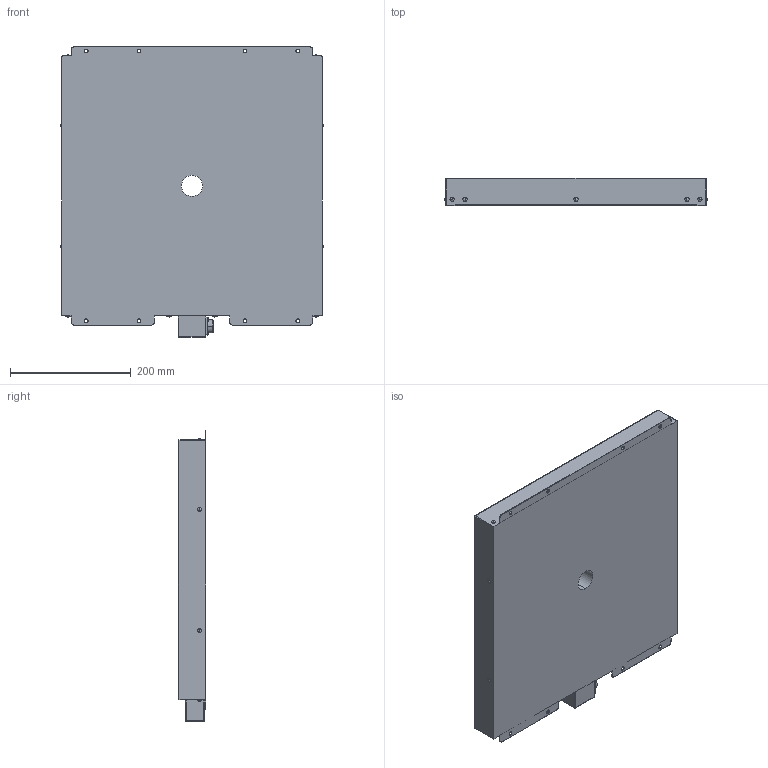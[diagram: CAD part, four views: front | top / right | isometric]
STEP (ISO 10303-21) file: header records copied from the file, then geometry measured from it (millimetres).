
FILE_DESCRIPTION (( 'STEP AP214' ), '1' );
FILE_NAME ('HDSBPA-400x400_-24-35D.STEP', '2023-06-01T07:08:13', ( '' ), ( '' ), 'SwSTEP 2.0', 'SolidWorks 2022', '' );
FILE_SCHEMA (( 'AUTOMOTIVE_DESIGN' ));
Length unit declared in the file: millimetre
Products named in the file (1): HDSBPA-400x400_-24-35D
Bounding box: 433.8 x 45 x 480 mm (x, y, z)
Volume: 8183030.9 mm3; surface area: 478446.5 mm2
Topology: 1 solids, 5 shells, 230 faces, 602 edges, 355 vertices
Faces by surface type: cylinder 114, sphere 54, plane 44, torus 16, cone 2
Entity records: 6658 total; most frequent: DIRECTION 1310, CARTESIAN_POINT 1088, ORIENTED_EDGE 1050, AXIS2_PLACEMENT_3D 554, EDGE_CURVE 525, VERTEX_POINT 332, CIRCLE 323, EDGE_LOOP 283
